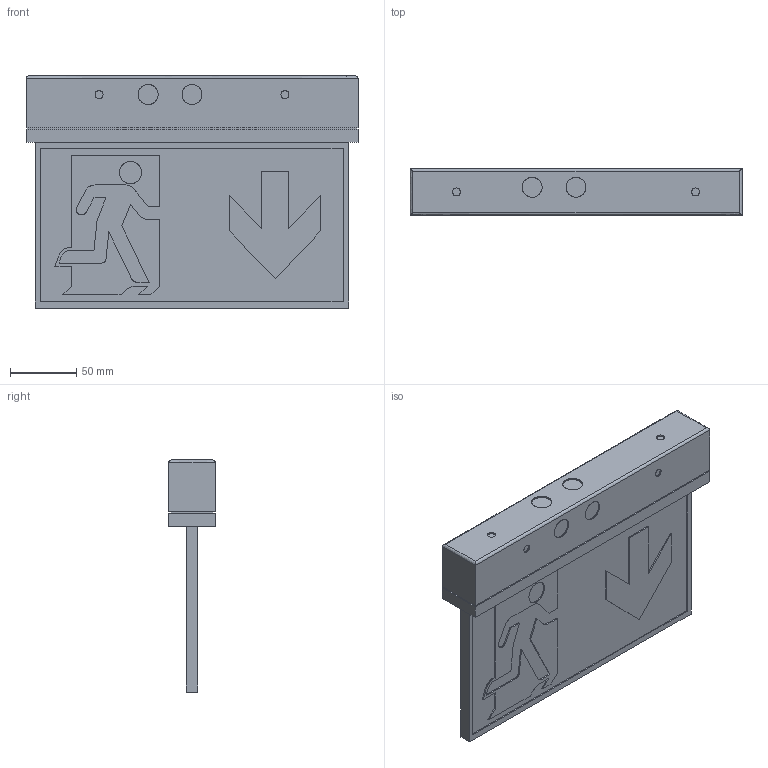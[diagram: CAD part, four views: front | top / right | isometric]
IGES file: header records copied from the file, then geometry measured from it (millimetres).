
Start section: SolidWorks IGES file using analytic representation for surfaces
Global section: file name: S:\KONSTRUKTIONEN\01_NOT-BELEUCHTUNG\KUNSTSTOFFLEUCHTEN\KM 2\10_Entwurf_01\04_Iges\150210\Dummy_KSU.IGS; native system: SolidWorks 2015; preprocessor: SolidWorks 2015; author: markus.weber; date: 150210.105421; units: millimetre
Bounding box: 250 x 35.12 x 174.75 mm (x, y, z)
Surface area: 112823.7 mm2 (no closed solid volume)
Topology: 0 solids, 0 shells, 180 faces, 1748 edges, 1748 vertices
Faces by surface type: bspline 154, revolution 26
